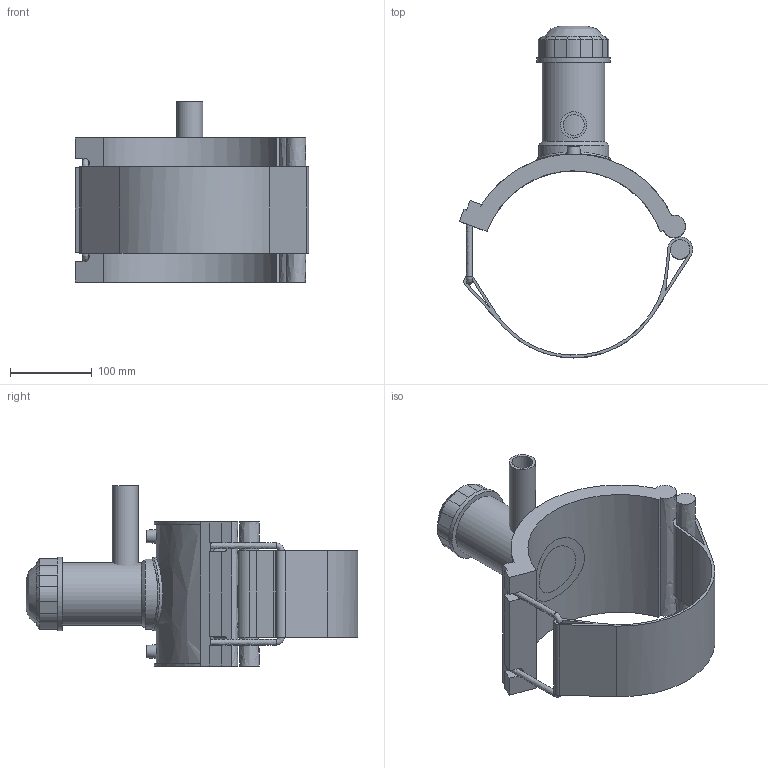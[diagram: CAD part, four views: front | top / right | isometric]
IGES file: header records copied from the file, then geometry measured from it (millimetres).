
Global section: file name: 4963P4225032; native system: Autodesk Inventor 2019; preprocessor: unknown; author: KIM; date: 20220317.113221; units: millimetre
Bounding box: 284.83 x 405.37 x 220 mm (x, y, z)
Volume: 1920710.8 mm3; surface area: 379158.7 mm2
Topology: 3 solids, 3 shells, 118 faces, 303 edges, 197 vertices
Faces by surface type: bspline 118
